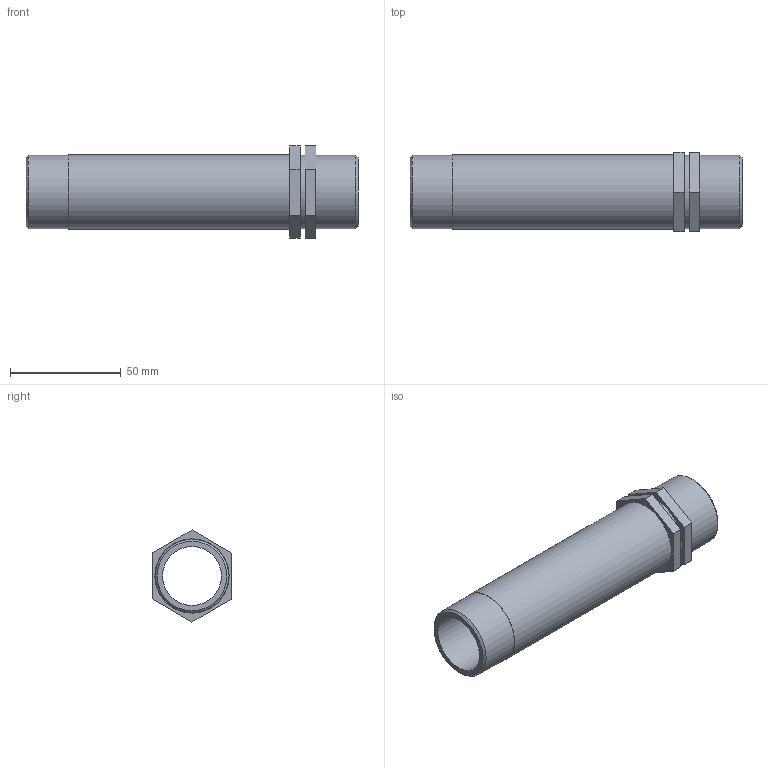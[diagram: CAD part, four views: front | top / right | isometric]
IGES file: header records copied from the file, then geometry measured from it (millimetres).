
Global section: file name: 051607010_0516070070A.ipt; native system: Autodesk Inventor 2015; preprocessor: unknown; author: KIM; date: 20170618.093323; units: millimetre
Bounding box: 150 x 36.06 x 41.57 mm (x, y, z)
Volume: 50871.3 mm3; surface area: 30017.8 mm2
Topology: 1 solids, 1 shells, 26 faces, 57 edges, 38 vertices
Faces by surface type: plane 19, cylinder 4, cone 2, revolution 1
Full cylindrical faces by diameter (mm): 33.249 x3, 33.566 x1
